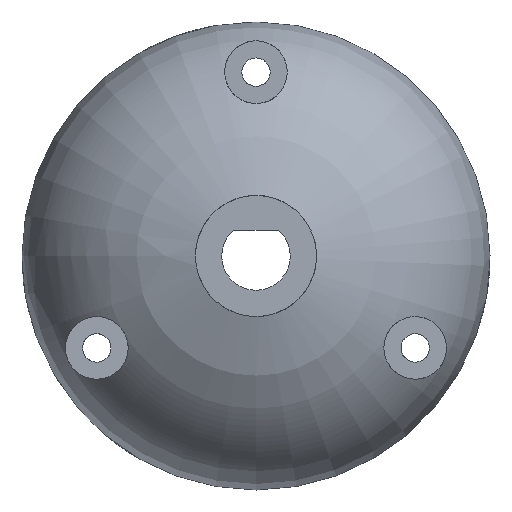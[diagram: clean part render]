
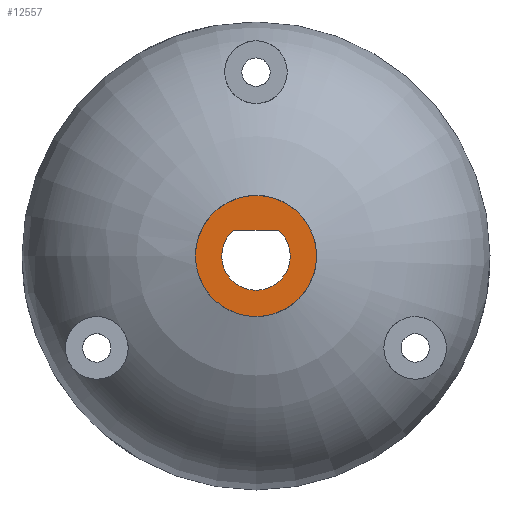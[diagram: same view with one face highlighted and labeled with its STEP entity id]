
A CAD part, left-side view. The second image highlights one B-rep face of the part: STEP entity #12557.
In plain terms, the highlighted planar face has unit normal (-1, 0, 0).
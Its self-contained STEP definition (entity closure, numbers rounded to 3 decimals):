
#8328 = CYLINDRICAL_SURFACE('',#8329,7.25);
#8329 = AXIS2_PLACEMENT_3D('',#8330,#8331,#8332);
#8330 = CARTESIAN_POINT('',(-37.,0.,0.));
#8331 = DIRECTION('',(-1.,-0.,-0.));
#8332 = DIRECTION('',(0.,1.,0.));
#12508 = VERTEX_POINT('',#12509);
#12509 = CARTESIAN_POINT('',(-13.99,7.25,0.));
#12530 = EDGE_CURVE('',#12508,#12508,#12531,.T.);
#12531 = SURFACE_CURVE('',#12532,(#12537,#12544),.PCURVE_S1.);
#12532 = CIRCLE('',#12533,7.25);
#12533 = AXIS2_PLACEMENT_3D('',#12534,#12535,#12536);
#12534 = CARTESIAN_POINT('',(-13.99,0.,0.));
#12535 = DIRECTION('',(1.,0.,0.));
#12536 = DIRECTION('',(0.,1.,0.));
#12537 = PCURVE('',#8328,#12538);
#12538 = DEFINITIONAL_REPRESENTATION('',(#12539),#12543);
#12539 = LINE('',#12540,#12541);
#12540 = CARTESIAN_POINT('',(-0.,-23.01));
#12541 = VECTOR('',#12542,1.);
#12542 = DIRECTION('',(-1.,0.));
#12543 = ( GEOMETRIC_REPRESENTATION_CONTEXT(2) 
PARAMETRIC_REPRESENTATION_CONTEXT() REPRESENTATION_CONTEXT('2D SPACE',''
  ) );
#12544 = PCURVE('',#12545,#12550);
#12545 = PLANE('',#12546);
#12546 = AXIS2_PLACEMENT_3D('',#12547,#12548,#12549);
#12547 = CARTESIAN_POINT('',(-13.99,0.,
    0.));
#12548 = DIRECTION('',(1.,0.,0.));
#12549 = DIRECTION('',(-0.,0.,1.));
#12550 = DEFINITIONAL_REPRESENTATION('',(#12551),#12555);
#12551 = CIRCLE('',#12552,7.25);
#12552 = AXIS2_PLACEMENT_2D('',#12553,#12554);
#12553 = CARTESIAN_POINT('',(0.,0.));
#12554 = DIRECTION('',(0.,-1.));
#12555 = ( GEOMETRIC_REPRESENTATION_CONTEXT(2) 
PARAMETRIC_REPRESENTATION_CONTEXT() REPRESENTATION_CONTEXT('2D SPACE',''
  ) );
#12557 = ADVANCED_FACE('',(#12558,#12561),#12545,.F.);
#12558 = FACE_BOUND('',#12559,.F.);
#12559 = EDGE_LOOP('',(#12560));
#12560 = ORIENTED_EDGE('',*,*,#12530,.T.);
#12561 = FACE_BOUND('',#12562,.F.);
#12562 = EDGE_LOOP('',(#12563,#12591));
#12563 = ORIENTED_EDGE('',*,*,#12564,.T.);
#12564 = EDGE_CURVE('',#12565,#12567,#12569,.T.);
#12565 = VERTEX_POINT('',#12566);
#12566 = CARTESIAN_POINT('',(-13.99,-2.683,3.1));
#12567 = VERTEX_POINT('',#12568);
#12568 = CARTESIAN_POINT('',(-13.99,2.683,3.1));
#12569 = SURFACE_CURVE('',#12570,(#12574,#12580),.PCURVE_S1.);
#12570 = LINE('',#12571,#12572);
#12571 = CARTESIAN_POINT('',(-13.99,-5.,3.1));
#12572 = VECTOR('',#12573,1.);
#12573 = DIRECTION('',(0.,1.,0.));
#12574 = PCURVE('',#12545,#12575);
#12575 = DEFINITIONAL_REPRESENTATION('',(#12576),#12579);
#12576 = B_SPLINE_CURVE_WITH_KNOTS('',1,(#12577,#12578),.UNSPECIFIED.,
  .F.,.F.,(2,2),(2.317,7.683),.PIECEWISE_BEZIER_KNOTS.);
#12577 = CARTESIAN_POINT('',(3.1,2.683));
#12578 = CARTESIAN_POINT('',(3.1,-2.683));
#12579 = ( GEOMETRIC_REPRESENTATION_CONTEXT(2) 
PARAMETRIC_REPRESENTATION_CONTEXT() REPRESENTATION_CONTEXT('2D SPACE',''
  ) );
#12580 = PCURVE('',#12581,#12586);
#12581 = PLANE('',#12582);
#12582 = AXIS2_PLACEMENT_3D('',#12583,#12584,#12585);
#12583 = CARTESIAN_POINT('',(-38.,-10.,3.1));
#12584 = DIRECTION('',(0.,0.,1.));
#12585 = DIRECTION('',(1.,0.,0.));
#12586 = DEFINITIONAL_REPRESENTATION('',(#12587),#12590);
#12587 = B_SPLINE_CURVE_WITH_KNOTS('',1,(#12588,#12589),.UNSPECIFIED.,
  .F.,.F.,(2,2),(2.317,7.683),.PIECEWISE_BEZIER_KNOTS.);
#12588 = CARTESIAN_POINT('',(24.01,7.317));
#12589 = CARTESIAN_POINT('',(24.01,12.683));
#12590 = ( GEOMETRIC_REPRESENTATION_CONTEXT(2) 
PARAMETRIC_REPRESENTATION_CONTEXT() REPRESENTATION_CONTEXT('2D SPACE',''
  ) );
#12591 = ORIENTED_EDGE('',*,*,#12592,.T.);
#12592 = EDGE_CURVE('',#12567,#12565,#12593,.T.);
#12593 = SURFACE_CURVE('',#12594,(#12599,#12610),.PCURVE_S1.);
#12594 = CIRCLE('',#12595,4.1);
#12595 = AXIS2_PLACEMENT_3D('',#12596,#12597,#12598);
#12596 = CARTESIAN_POINT('',(-13.99,0.,0.));
#12597 = DIRECTION('',(-1.,0.,0.));
#12598 = DIRECTION('',(0.,1.,0.));
#12599 = PCURVE('',#12545,#12600);
#12600 = DEFINITIONAL_REPRESENTATION('',(#12601),#12609);
#12601 = ( BOUNDED_CURVE() B_SPLINE_CURVE(2,(#12602,#12603,#12604,#12605
    ,#12606,#12607,#12608),.UNSPECIFIED.,.T.,.F.) 
B_SPLINE_CURVE_WITH_KNOTS((1,2,2,2,2,1),(-2.094,0.,
    2.094,4.189,6.283,8.378),
.UNSPECIFIED.) CURVE() GEOMETRIC_REPRESENTATION_ITEM() 
RATIONAL_B_SPLINE_CURVE((1.,0.5,1.,0.5,1.,0.5,1.)) REPRESENTATION_ITEM(
  '') );
#12602 = CARTESIAN_POINT('',(0.,-4.1));
#12603 = CARTESIAN_POINT('',(-7.101,-4.1));
#12604 = CARTESIAN_POINT('',(-3.551,2.05));
#12605 = CARTESIAN_POINT('',(0.,8.2));
#12606 = CARTESIAN_POINT('',(3.551,2.05));
#12607 = CARTESIAN_POINT('',(7.101,-4.1));
#12608 = CARTESIAN_POINT('',(0.,-4.1));
#12609 = ( GEOMETRIC_REPRESENTATION_CONTEXT(2) 
PARAMETRIC_REPRESENTATION_CONTEXT() REPRESENTATION_CONTEXT('2D SPACE',''
  ) );
#12610 = PCURVE('',#12611,#12616);
#12611 = CYLINDRICAL_SURFACE('',#12612,4.1);
#12612 = AXIS2_PLACEMENT_3D('',#12613,#12614,#12615);
#12613 = CARTESIAN_POINT('',(-37.,0.,0.));
#12614 = DIRECTION('',(-1.,-0.,-0.));
#12615 = DIRECTION('',(0.,1.,0.));
#12616 = DEFINITIONAL_REPRESENTATION('',(#12617),#12621);
#12617 = LINE('',#12618,#12619);
#12618 = CARTESIAN_POINT('',(-12.566,-23.01));
#12619 = VECTOR('',#12620,1.);
#12620 = DIRECTION('',(1.,-0.));
#12621 = ( GEOMETRIC_REPRESENTATION_CONTEXT(2) 
PARAMETRIC_REPRESENTATION_CONTEXT() REPRESENTATION_CONTEXT('2D SPACE',''
  ) );
